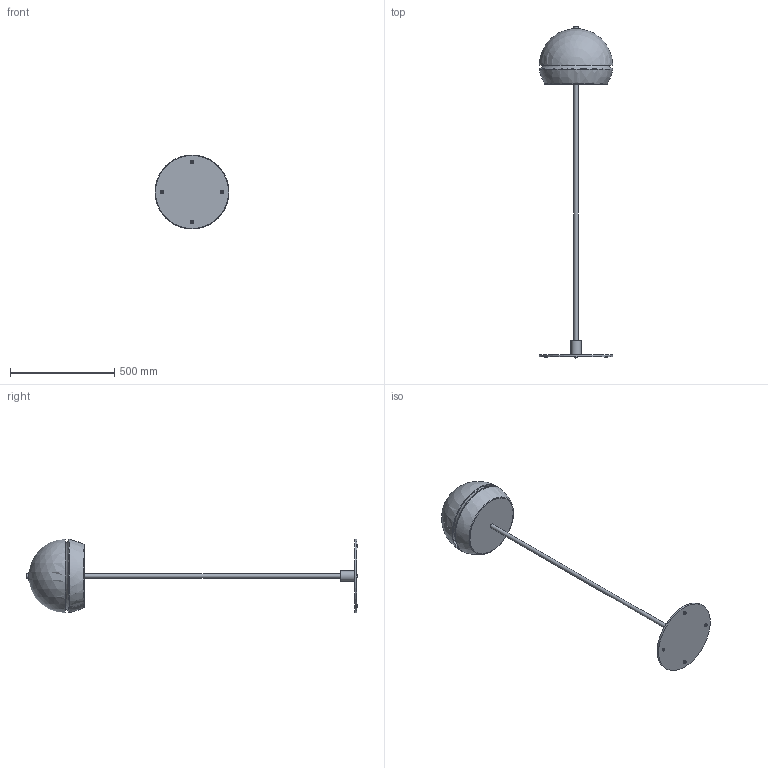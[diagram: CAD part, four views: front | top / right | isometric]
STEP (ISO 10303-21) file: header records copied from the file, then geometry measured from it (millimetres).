
FILE_DESCRIPTION (( 'STEP AP203' ), '1' );
FILE_NAME ('SC_Fontana_Pie.STEP', '2021-09-23T13:30:22', ( '' ), ( '' ), 'SwSTEP 2.0', 'SolidWorks 2019', '' );
FILE_SCHEMA (( 'CONFIG_CONTROL_DESIGN' ));
Length unit declared in the file: millimetre
Products named in the file (1): SC_Fontana_Pie
Bounding box: 355 x 1594.12 x 355 mm (x, y, z)
Volume: 2285093.3 mm3; surface area: 1159937.1 mm2
Topology: 12 solids, 12 shells, 80 faces, 143 edges, 94 vertices
Faces by surface type: plane 37, cylinder 15, torus 13, cone 7, sphere 5, bspline 3
Full cylindrical faces by diameter (mm): 15.6 x1, 16 x1, 20 x3, 40.5 x1, 43.5 x2, 49 x1, 49.5 x2, 302 x1, 305 x1, 351 x1
Entity records: 2284 total; most frequent: CARTESIAN_POINT 949, DIRECTION 284, ORIENTED_EDGE 168, AXIS2_PLACEMENT_3D 135, EDGE_LOOP 122, FACE_OUTER_BOUND 109, EDGE_CURVE 84, ADVANCED_FACE 78
